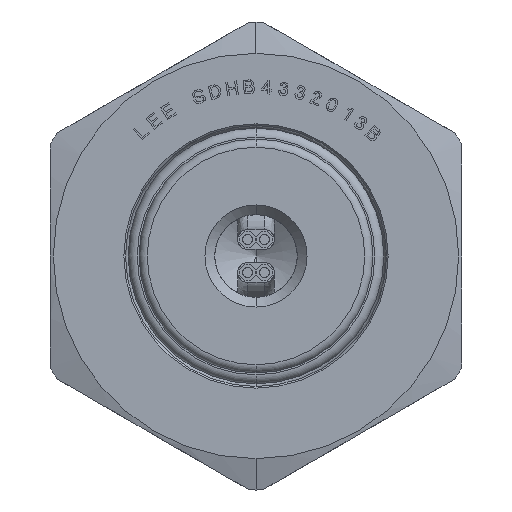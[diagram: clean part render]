
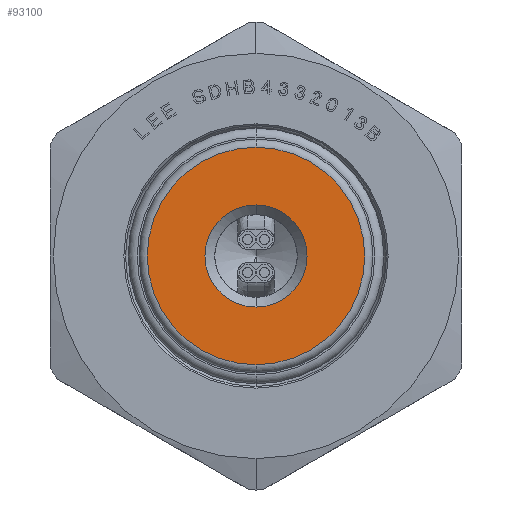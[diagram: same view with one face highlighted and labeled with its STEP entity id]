
A CAD part, left-side view. The second image highlights one B-rep face of the part: STEP entity #93100.
In plain terms, the highlighted planar face has unit normal (-1, 0, 0).
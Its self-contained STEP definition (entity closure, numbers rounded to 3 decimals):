
#92610=CARTESIAN_POINT('',(-34.986,1.677,0.));
#92620=VERTEX_POINT('',#92610);
#92710=CARTESIAN_POINT('',(-34.986,18.441,0.));
#92720=VERTEX_POINT('',#92710);
#92750=CARTESIAN_POINT('',(-34.986,10.059,0.));
#92760=DIRECTION('',(1.,0.,0.));
#92770=DIRECTION('',(0.,1.,0.));
#92780=AXIS2_PLACEMENT_3D('',#92750,#92760,#92770);
#92790=CIRCLE('',#92780,8.382);
#92800=EDGE_CURVE('',#92620,#92720,#92790,.T.);
#92850=CARTESIAN_POINT('',(-34.986,14.25,0.));
#92860=DIRECTION('',(1.,0.,0.));
#92870=DIRECTION('',(0.,-1.,0.));
#92880=AXIS2_PLACEMENT_3D('',#92850,#92860,#92870);
#92890=PLANE('',#92880);
#92900=EDGE_CURVE('',#92720,#92620,#92790,.T.);
#92910=ORIENTED_EDGE('',*,*,#92900,.F.);
#92920=ORIENTED_EDGE('',*,*,#92800,.F.);
#92930=EDGE_LOOP('',(#92920,#92910));
#92940=FACE_OUTER_BOUND('',#92930,.T.);
#92950=CARTESIAN_POINT('',(-34.986,10.059,0.));
#92960=DIRECTION('',(-1.,0.,0.));
#92970=DIRECTION('',(0.,1.,0.));
#92980=AXIS2_PLACEMENT_3D('',#92950,#92960,#92970);
#92990=CIRCLE('',#92980,3.937);
#93000=CARTESIAN_POINT('',(-34.986,6.122,
0.));
#93010=VERTEX_POINT('',#93000);
#93020=CARTESIAN_POINT('',(-34.986,13.996,
0.));
#93030=VERTEX_POINT('',#93020);
#93040=EDGE_CURVE('',#93010,#93030,#92990,.T.);
#93050=ORIENTED_EDGE('',*,*,#93040,.F.);
#93060=EDGE_CURVE('',#93030,#93010,#92990,.T.);
#93070=ORIENTED_EDGE('',*,*,#93060,.F.);
#93080=EDGE_LOOP('',(#93070,#93050));
#93090=FACE_BOUND('',#93080,.T.);
#93100=ADVANCED_FACE('',(#92940,#93090),#92890,.F.);
